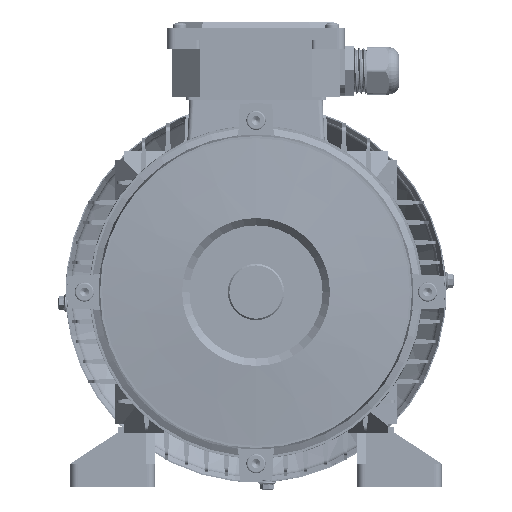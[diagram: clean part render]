
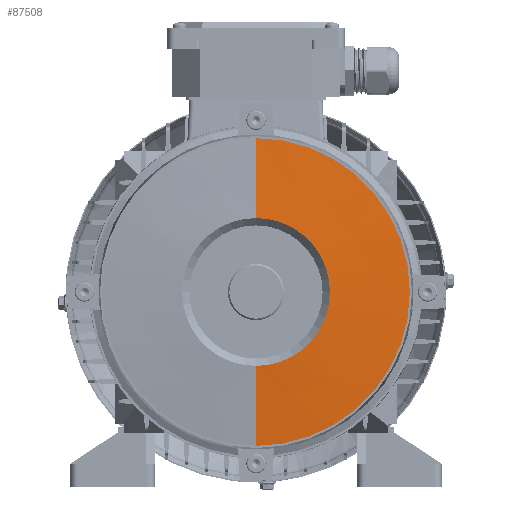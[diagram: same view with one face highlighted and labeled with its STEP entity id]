
A CAD part, front view. The second image highlights one B-rep face of the part: STEP entity #87508.
In plain terms, the highlighted conical face has half-angle 85.764 degrees and reference radius 50 mm.
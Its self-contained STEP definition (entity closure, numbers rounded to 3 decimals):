
#6192 = CIRCLE ( 'NONE', #126421, 50. ) ;
#10863 = CARTESIAN_POINT ( 'NONE',  ( 0., 0., -50. ) ) ;
#11260 = VERTEX_POINT ( 'NONE', #79316 ) ;
#19003 = VECTOR ( 'NONE', #20935, 1000. ) ;
#19614 = ORIENTED_EDGE ( 'NONE', *, *, #76463, .F. ) ;
#20935 = DIRECTION ( 'NONE',  ( 0., 0.074, -0.997 ) ) ;
#25253 = EDGE_CURVE ( 'NONE', #119656, #65024, #99238, .T. ) ;
#28291 = ORIENTED_EDGE ( 'NONE', *, *, #105802, .F. ) ;
#33132 = CARTESIAN_POINT ( 'NONE',  ( 0., 0., 0. ) ) ;
#33948 = ORIENTED_EDGE ( 'NONE', *, *, #25253, .T. ) ;
#35815 = EDGE_LOOP ( 'NONE', ( #19614, #33948, #37127, #28291 ) ) ;
#37127 = ORIENTED_EDGE ( 'NONE', *, *, #76541, .T. ) ;
#40718 = VERTEX_POINT ( 'NONE', #76895 ) ;
#41495 = VECTOR ( 'NONE', #110239, 1000. ) ;
#42975 = AXIS2_PLACEMENT_3D ( 'NONE', #44103, #114491, #54218 ) ;
#43241 = DIRECTION ( 'NONE',  ( 0., 0., -1. ) ) ;
#44103 = CARTESIAN_POINT ( 'NONE',  ( 0., 4., 0. ) ) ;
#49463 = DIRECTION ( 'NONE',  ( 0., 0., 1. ) ) ;
#50086 = CIRCLE ( 'NONE', #42975, 104. ) ;
#54218 = DIRECTION ( 'NONE',  ( 0., 0., -1. ) ) ;
#65024 = VERTEX_POINT ( 'NONE', #128325 ) ;
#76463 = EDGE_CURVE ( 'NONE', #119656, #11260, #6192, .T. ) ;
#76541 = EDGE_CURVE ( 'NONE', #65024, #40718, #50086, .T. ) ;
#76895 = CARTESIAN_POINT ( 'NONE',  ( 0., 4., 104. ) ) ;
#79316 = CARTESIAN_POINT ( 'NONE',  ( 0., 0., 50. ) ) ;
#87508 = ADVANCED_FACE ( 'NONE', ( #100157 ), #120561, .T. ) ;
#89518 = DIRECTION ( 'NONE',  ( 0., 1., 0. ) ) ;
#96826 = CARTESIAN_POINT ( 'NONE',  ( 0., 0., -50. ) ) ;
#99238 = LINE ( 'NONE', #10863, #19003 ) ;
#100157 = FACE_OUTER_BOUND ( 'NONE', #35815, .T. ) ;
#103556 = DIRECTION ( 'NONE',  ( 0., -1., 0. ) ) ;
#105802 = EDGE_CURVE ( 'NONE', #11260, #40718, #121742, .T. ) ;
#109717 = CARTESIAN_POINT ( 'NONE',  ( 0., 0., 0. ) ) ;
#110239 = DIRECTION ( 'NONE',  ( 0., 0.074, 0.997 ) ) ;
#114491 = DIRECTION ( 'NONE',  ( 0., -1., 0. ) ) ;
#118154 = AXIS2_PLACEMENT_3D ( 'NONE', #109717, #89518, #49463 ) ;
#119656 = VERTEX_POINT ( 'NONE', #96826 ) ;
#119936 = CARTESIAN_POINT ( 'NONE',  ( 0., 0., 50. ) ) ;
#120561 = CONICAL_SURFACE ( 'NONE', #118154, 50., 1.497 ) ;
#121742 = LINE ( 'NONE', #119936, #41495 ) ;
#126421 = AXIS2_PLACEMENT_3D ( 'NONE', #33132, #103556, #43241 ) ;
#128325 = CARTESIAN_POINT ( 'NONE',  ( 0., 4., -104. ) ) ;
